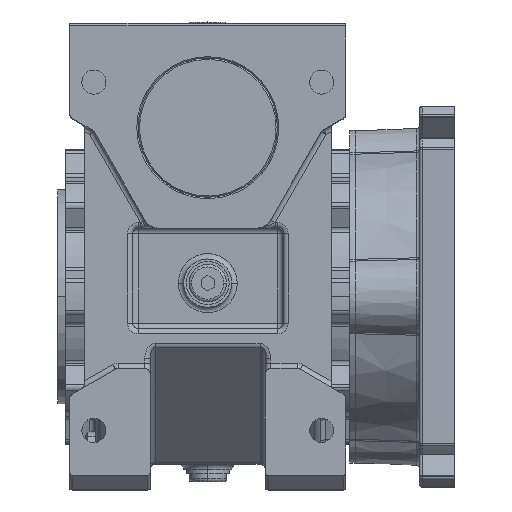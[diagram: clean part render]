
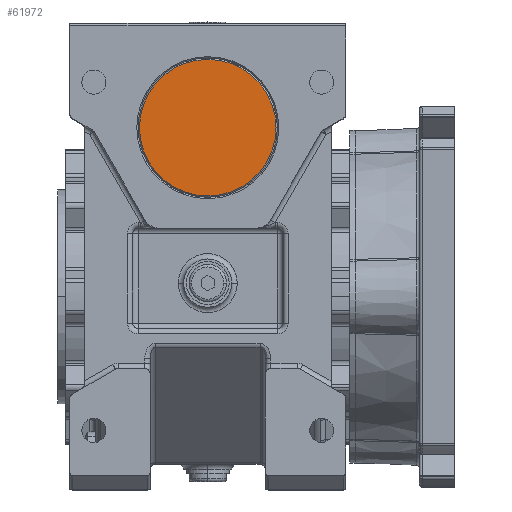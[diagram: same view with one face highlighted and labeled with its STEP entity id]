
A CAD part, top view. The second image highlights one B-rep face of the part: STEP entity #61972.
In plain terms, the highlighted planar face has unit normal (0, 0, 1).
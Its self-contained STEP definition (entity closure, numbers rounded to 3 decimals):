
#61972 = ADVANCED_FACE ( 'NONE', ( #208556 ), #208594, .T. ) ;
#61977 = EDGE_LOOP ( 'NONE', ( #61980, #61982 ) ) ;
#61980 = ORIENTED_EDGE ( 'NONE', *, *, #69784, .F. ) ;
#61982 = ORIENTED_EDGE ( 'NONE', *, *, #62025, .F. ) ;
#62025 = EDGE_CURVE ( 'NONE', #69787, #69785, #208654, .T. ) ;
#69784 = EDGE_CURVE ( 'NONE', #69785, #69787, #108781, .T. ) ;
#69785 = VERTEX_POINT ( 'NONE', #108766 ) ;
#69787 = VERTEX_POINT ( 'NONE', #108760 ) ;
#108760 = CARTESIAN_POINT ( 'NONE',  ( 25.5, 63., 72. ) ) ;
#108766 = CARTESIAN_POINT ( 'NONE',  ( -25.5, 63., 72. ) ) ;
#108770 = DIRECTION ( 'NONE',  ( -1., 0., 0. ) ) ;
#108773 = DIRECTION ( 'NONE',  ( 0., 0., -1. ) ) ;
#108775 = CARTESIAN_POINT ( 'NONE',  ( 0., 63., 72. ) ) ;
#108777 = AXIS2_PLACEMENT_3D ( 'NONE', #108775, #108773, #108770 ) ;
#108781 = CIRCLE ( 'NONE', #108777, 25.5 ) ;
#208556 = FACE_OUTER_BOUND ( 'NONE', #61977, .T. ) ;
#208589 = DIRECTION ( 'NONE',  ( 1., 0., 0. ) ) ;
#208590 = DIRECTION ( 'NONE',  ( 0., 0., 1. ) ) ;
#208591 = CARTESIAN_POINT ( 'NONE',  ( 0., 63., 72. ) ) ;
#208592 = AXIS2_PLACEMENT_3D ( 'NONE', #208591, #208590, #208589 ) ;
#208594 = PLANE ( 'NONE',  #208592 ) ;
#208651 = DIRECTION ( 'NONE',  ( -1., 0., 0. ) ) ;
#208652 = DIRECTION ( 'NONE',  ( 0., 0., -1. ) ) ;
#208653 = AXIS2_PLACEMENT_3D ( 'NONE', #208659, #208652, #208651 ) ;
#208654 = CIRCLE ( 'NONE', #208653, 25.5 ) ;
#208659 = CARTESIAN_POINT ( 'NONE',  ( 0., 63., 72. ) ) ;
